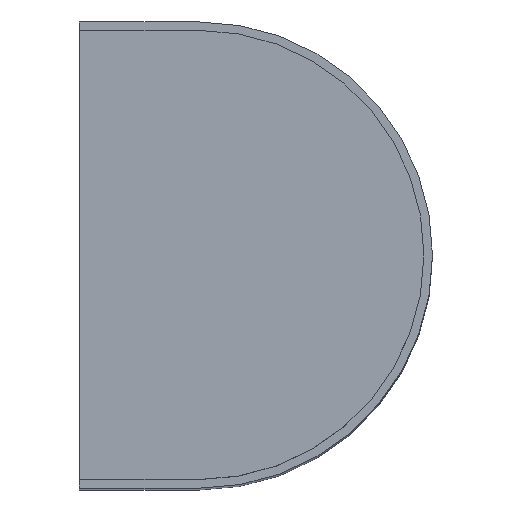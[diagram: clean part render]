
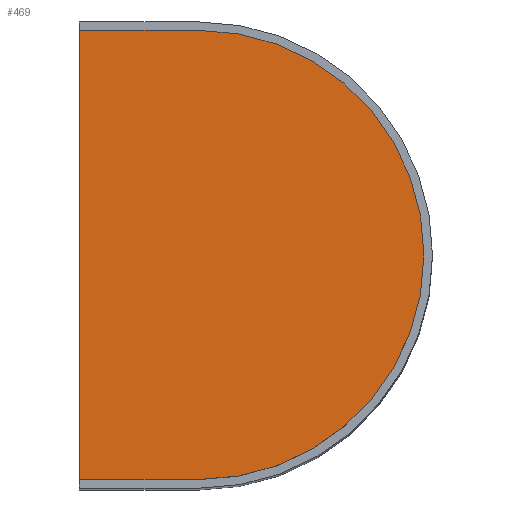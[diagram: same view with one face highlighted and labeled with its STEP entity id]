
A CAD part, top view. The second image highlights one B-rep face of the part: STEP entity #469.
In plain terms, the highlighted planar face has unit normal (0, 0, 1).
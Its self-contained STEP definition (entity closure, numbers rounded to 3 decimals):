
#28 = DIRECTION ( 'NONE',  ( 1., 0., 0. ) ) ;
#29 = DIRECTION ( 'NONE',  ( 0., 0., 1. ) ) ;
#35 = PLANE ( 'NONE',  #108 ) ;
#54 = CARTESIAN_POINT ( 'NONE',  ( -103., -65.5, 173. ) ) ;
#56 = CARTESIAN_POINT ( 'NONE',  ( -68., 0., 173. ) ) ;
#76 = CARTESIAN_POINT ( 'NONE',  ( -68., -65.5, 173. ) ) ;
#80 = CARTESIAN_POINT ( 'NONE',  ( -103., 65.5, 173. ) ) ;
#82 = CARTESIAN_POINT ( 'NONE',  ( -68., 65.5, 173. ) ) ;
#98 = EDGE_CURVE ( 'NONE', #448, #445, #351, .T. ) ;
#102 = EDGE_CURVE ( 'NONE', #455, #448, #347, .T. ) ;
#103 = EDGE_CURVE ( 'NONE', #433, #455, #340, .T. ) ;
#106 = AXIS2_PLACEMENT_3D ( 'NONE', #195, #194, #198 ) ;
#108 = AXIS2_PLACEMENT_3D ( 'NONE', #56, #29, #28 ) ;
#141 = EDGE_CURVE ( 'NONE', #445, #433, #310, .T. ) ;
#170 = CARTESIAN_POINT ( 'NONE',  ( -103., 65.5, 173. ) ) ;
#194 = DIRECTION ( 'NONE',  ( 0., 0., 1. ) ) ;
#195 = CARTESIAN_POINT ( 'NONE',  ( -68., 0., 173. ) ) ;
#198 = DIRECTION ( 'NONE',  ( 1., 0., 0. ) ) ;
#201 = CARTESIAN_POINT ( 'NONE',  ( -103., -65.5, 173. ) ) ;
#203 = DIRECTION ( 'NONE',  ( 1., 0., 0. ) ) ;
#204 = DIRECTION ( 'NONE',  ( -1., 0., 0. ) ) ;
#216 = CARTESIAN_POINT ( 'NONE',  ( -68., 65.5, 173. ) ) ;
#224 = DIRECTION ( 'NONE',  ( 0., -1., 0. ) ) ;
#269 = FACE_OUTER_BOUND ( 'NONE', #427, .T. ) ;
#283 = ORIENTED_EDGE ( 'NONE', *, *, #103, .T. ) ;
#307 = VECTOR ( 'NONE', #224, 1000. ) ;
#310 = LINE ( 'NONE', #170, #307 ) ;
#337 = VECTOR ( 'NONE', #203, 1000. ) ;
#340 = LINE ( 'NONE', #201, #337 ) ;
#343 = ORIENTED_EDGE ( 'NONE', *, *, #98, .T. ) ;
#344 = VECTOR ( 'NONE', #204, 1000. ) ;
#347 = CIRCLE ( 'NONE', #106, 65.5 ) ;
#351 = LINE ( 'NONE', #216, #344 ) ;
#384 = ORIENTED_EDGE ( 'NONE', *, *, #102, .T. ) ;
#398 = ORIENTED_EDGE ( 'NONE', *, *, #141, .T. ) ;
#427 = EDGE_LOOP ( 'NONE', ( #343, #398, #283, #384 ) ) ;
#433 = VERTEX_POINT ( 'NONE', #54 ) ;
#445 = VERTEX_POINT ( 'NONE', #80 ) ;
#448 = VERTEX_POINT ( 'NONE', #82 ) ;
#455 = VERTEX_POINT ( 'NONE', #76 ) ;
#469 = ADVANCED_FACE ( 'NONE', ( #269 ), #35, .T. ) ;
